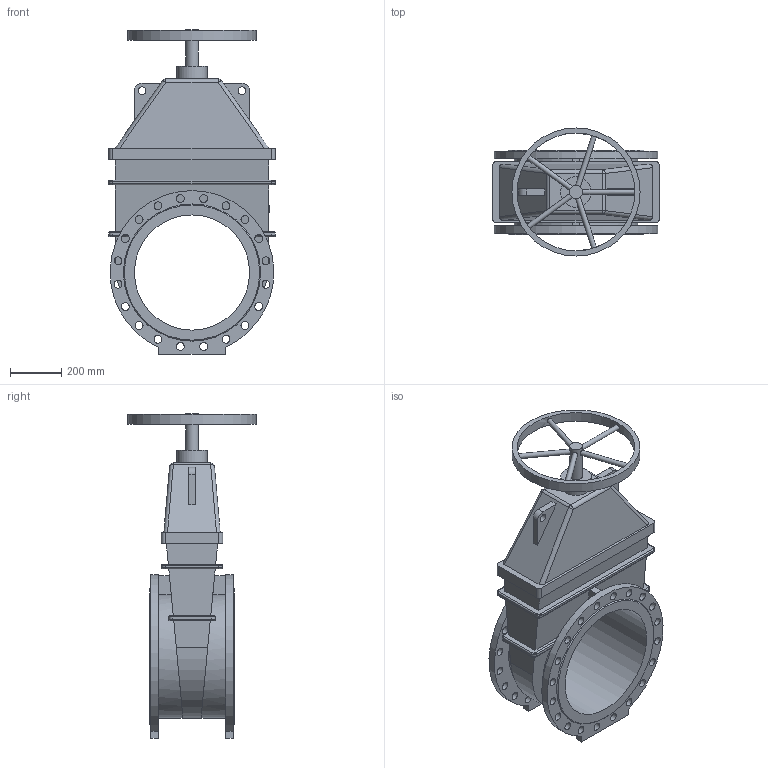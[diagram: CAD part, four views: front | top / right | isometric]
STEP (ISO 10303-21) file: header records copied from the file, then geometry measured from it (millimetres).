
FILE_DESCRIPTION(('STEP AP203'), '1');
FILE_NAME('Çàäâèæêà 47GV DN450 PN16_L330 ñ ìàõîâèêîì', '', ('UNSPECIFIED'), ('UNSPECIFIED'), 'ASCON STEP Converter 1.6', 'ASCON Math Kernel', '');
FILE_SCHEMA(('CONFIG_CONTROL_DESIGN'));
Length unit declared in the file: millimetre
Bounding box: 650 x 500 x 1269 mm (x, y, z)
Volume: 80255840.6 mm3; surface area: 3047458.7 mm2
Topology: 1 solids, 1 shells, 211 faces, 537 edges, 340 vertices
Faces by surface type: cylinder 107, plane 82, bspline 12, torus 8, cone 2
Full cylindrical faces by diameter (mm): 20 x5, 30 x2, 31 x40, 50 x1, 120 x1, 450 x1, 460 x1, 500 x1
Entity records: 10303 total; most frequent: CARTESIAN_POINT 3528, DIRECTION 1020, ORIENTED_EDGE 956, EDGE_CURVE 478, AXIS2_PLACEMENT_3D 394, EDGE_LOOP 378, VERTEX_POINT 340, FACE_BOUND 271
